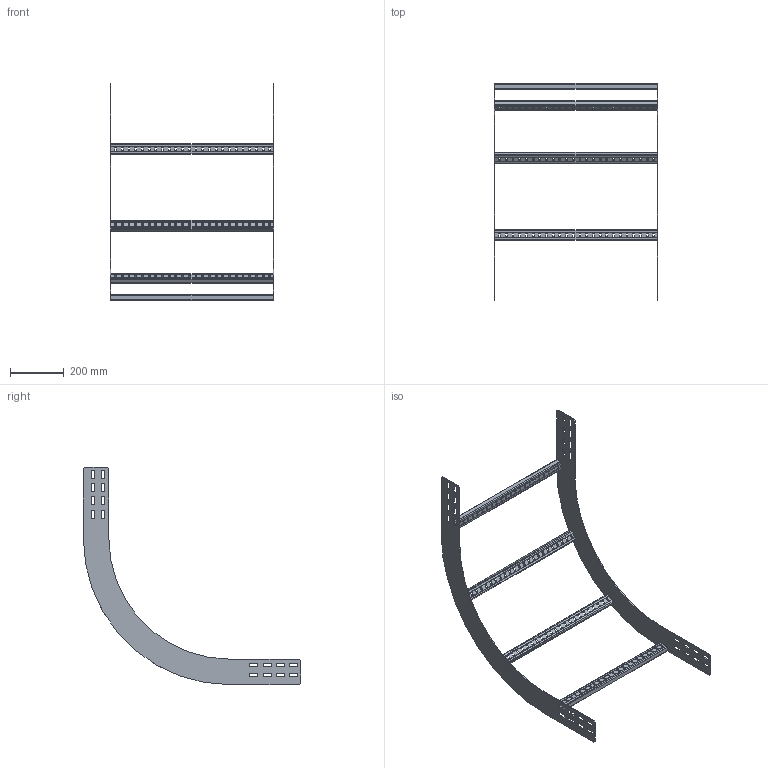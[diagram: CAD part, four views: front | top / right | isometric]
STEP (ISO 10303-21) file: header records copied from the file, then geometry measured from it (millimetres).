
FILE_DESCRIPTION(('Creo Elements/Direct Modeling STEP Export'),'2;1');
FILE_NAME('WPIR10-60-90-45.stp','2016-06-01T14:37:56',(''),(''),'PTC Creo Elements/Direct Modeling STEP processor for AP214 (Solid Model)','PTC Creo Elements/Direct Modeling 19.0C 15-Aug-2015 (C) Parametric Technology GmbH','');
FILE_SCHEMA(('AUTOMOTIVE_DESIGN { 1 0 10303 214 1 1 1 1 }'));
Length unit declared in the file: millimetre
Products named in the file (3): WPIBG100_450; WPBS60.1.1; WPIR10-60-90-45
Assembly tree (6 placements, depth 2):
  WPIR10-60-90-45
    WPBS60.1.1  x4
    WPIBG100_450  x2
Bounding box: 611 x 810 x 810 mm (x, y, z)
Volume: 1067272.9 mm3; surface area: 986067.1 mm2
Topology: 6 solids, 6 shells, 700 faces, 2064 edges, 1376 vertices
Faces by surface type: plane 432, cylinder 268
Entity records: 7372 total; most frequent: CARTESIAN_POINT 1270, ORIENTED_EDGE 1260, DIRECTION 1206, EDGE_CURVE 630, VECTOR 494, LINE 494, VERTEX_POINT 420, AXIS2_PLACEMENT_3D 356
